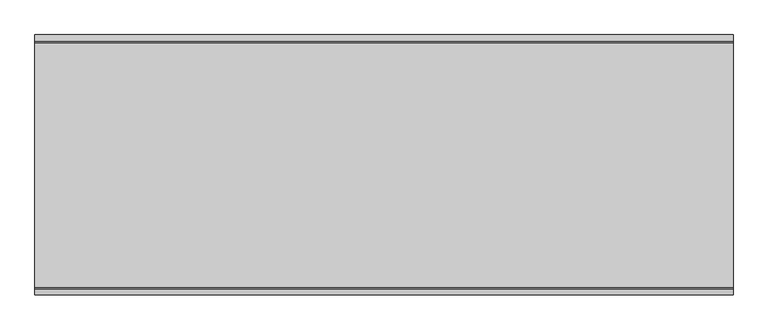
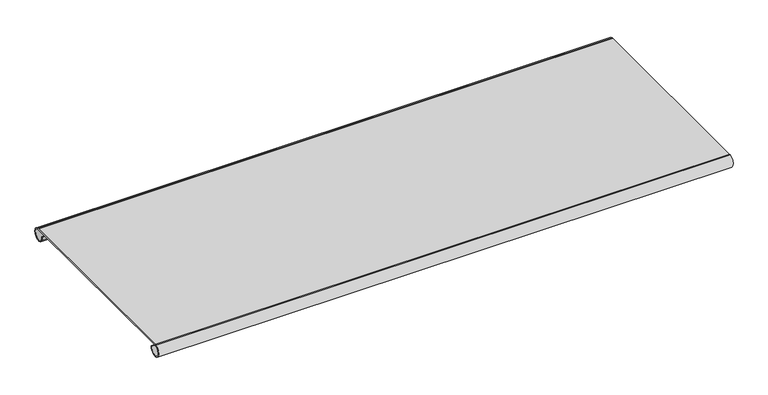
"""IFC4 building model written with IfcOpenShell, lengths in millimetres: furniture geometry, OFS VIDE LEATHER SLING SHELVES : Leather Sling Shelf 40."""

from ifc_helpers import new_model, si_unit, point, frame, frame_2d, origin, place, context, project, spatial, polyline, circle_curve, trimmed, segment, composite_curve, outline, extrude, source, transform, mapped, element, save


def furniture_12282510(model_context):
    return source(origin(), model_context, "Body", "SweptSolid", [
        extrude(outline(composite_curve([segment(trimmed(circle_curve(frame_2d((177.8, 82.55)), 9.525), [point((168.4229668, 84.2223854))], [point((179.4723854, 91.9270332))], True, "CARTESIAN"), True, "CONTINUOUS"), segment(trimmed(circle_curve(frame_2d((178.3574618, 85.6756777)), 6.35), [point((179.4723854, 91.9270332))], [point((177.9721778, 92.0139785))], True, "CARTESIAN"), True, "CONTINUOUS"), segment(trimmed(circle_curve(frame_2d((0.0, 3019.8312683)), 2933.2214678), [point((177.9721778, 92.0139785))], [point((-177.9721778, 92.0139785))], False, "CARTESIAN"), True, "CONTINUOUS"), segment(trimmed(circle_curve(frame_2d((-178.3574618, 85.6756777)), 6.35), [point((-177.9721778, 92.0139785))], [point((-179.4723854, 91.9270332))], True, "CARTESIAN"), True, "CONTINUOUS"), segment(trimmed(circle_curve(frame_2d((-177.8, 82.55)), 9.525), [point((-179.4723854, 91.9270332))], [point((-168.4229668, 84.2223854))], True, "CARTESIAN"), True, "CONTINUOUS"), segment(polyline([(-168.4229668, 84.2223854), (-166.8601279, 84.5011163)]), True, "CONTINUOUS"), segment(trimmed(circle_curve(frame_2d((-177.8, 82.55)), 11.1125), [point((-166.8601279, 84.5011163))], [point((-179.7511163, 93.4898721))], False, "CARTESIAN"), True, "CONTINUOUS"), segment(trimmed(circle_curve(frame_2d((-178.3574618, 85.6756777)), 7.9375), [point((-179.7511163, 93.4898721))], [point((-177.8758568, 93.5985537))], False, "CARTESIAN"), True, "CONTINUOUS"), segment(trimmed(circle_curve(frame_2d((0.0, 3019.8312683)), 2931.6339678), [point((-177.8758568, 93.5985537))], [point((177.8758568, 93.5985537))], True, "CARTESIAN"), True, "CONTINUOUS"), segment(trimmed(circle_curve(frame_2d((178.3574618, 85.6756777)), 7.9375), [point((177.8758568, 93.5985537))], [point((179.7511163, 93.4898721))], False, "CARTESIAN"), True, "CONTINUOUS"), segment(trimmed(circle_curve(frame_2d((177.8, 82.55)), 11.1125), [point((179.7511163, 93.4898721))], [point((166.8601279, 84.5011163))], False, "CARTESIAN"), True, "CONTINUOUS"), segment(polyline([(166.8601279, 84.5011163), (168.4229668, 84.2223854)]), True, "CONTINUOUS")], self_intersect=False)), frame((-506.4125, 0.0, 0.0), z_axis=(1.0, 0.0, 0.0), x_axis=(0.0, 1.0, 0.0)), (0.0, 0.0, 1.0), 1012.825),
    ])


if __name__ == "__main__":
    model = new_model("IFC4")
    model_context = context("Model", 3, world=origin())
    ifc_project = project(units=[si_unit("LENGTHUNIT", "METRE", prefix="MILLI")], contexts=[model_context])
    site = spatial("IfcSite", under=ifc_project)
    building = spatial("IfcBuilding", under=site)
    placement = place(None, origin())
    furniture_shape = furniture_12282510(model_context)
    element("IfcFurniture", 1, ObjectType="OFS VIDE LEATHER SLING SHELVES : Leather Sling Shelf 40", at=placement, inside=building, context=model_context, shape_type="MappedRepresentation", body=[
        mapped(furniture_shape, transform((0.0, 0.0, 0.0), x_axis=(1.0, 0.0, 0.0), y_axis=(0.0, 1.0, 0.0), z_axis=(0.0, 0.0, 1.0))),
    ])
    save(model, "model.ifc")
